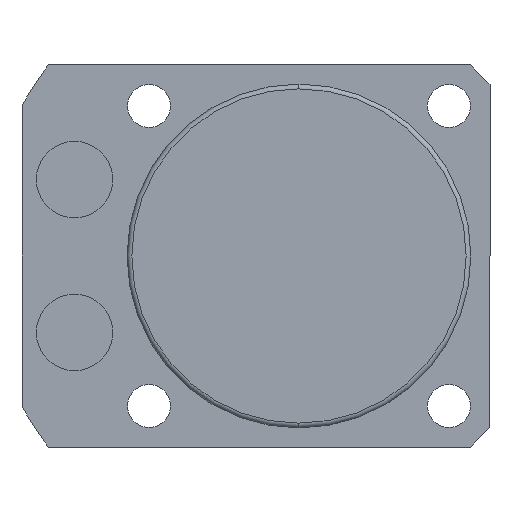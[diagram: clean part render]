
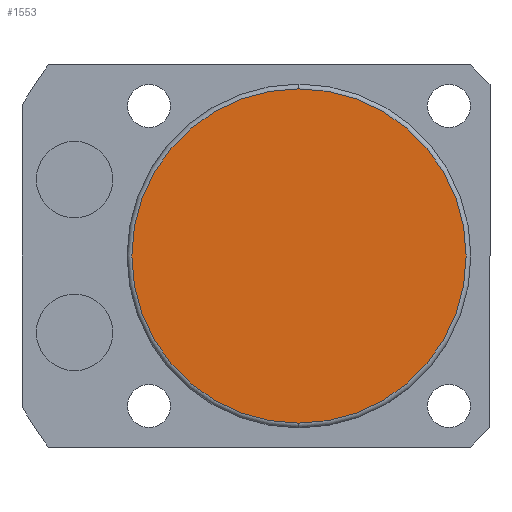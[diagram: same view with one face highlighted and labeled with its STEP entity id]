
A CAD part, front view. The second image highlights one B-rep face of the part: STEP entity #1553.
In plain terms, the highlighted planar face has unit normal (0, -1, 0).
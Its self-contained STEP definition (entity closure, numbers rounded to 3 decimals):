
#161 = PLANE ( 'NONE',  #987 ) ;
#304 = CIRCLE ( 'NONE', #435, 17.5 ) ;
#336 = EDGE_CURVE ( 'NONE', #1140, #1833, #304, .T. ) ;
#337 = CARTESIAN_POINT ( 'NONE',  ( 0., -65.5, 0. ) ) ;
#435 = AXIS2_PLACEMENT_3D ( 'NONE', #1738, #1905, #656 ) ;
#464 = EDGE_CURVE ( 'NONE', #1833, #1140, #715, .T. ) ;
#515 = EDGE_LOOP ( 'NONE', ( #1082, #1105 ) ) ;
#656 = DIRECTION ( 'NONE',  ( 0., 0., -1. ) ) ;
#715 = CIRCLE ( 'NONE', #1908, 17.5 ) ;
#987 = AXIS2_PLACEMENT_3D ( 'NONE', #337, #1800, #1785 ) ;
#1082 = ORIENTED_EDGE ( 'NONE', *, *, #336, .T. ) ;
#1105 = ORIENTED_EDGE ( 'NONE', *, *, #464, .T. ) ;
#1140 = VERTEX_POINT ( 'NONE', #1688 ) ;
#1320 = CARTESIAN_POINT ( 'NONE',  ( 0., -65.5, 17.5 ) ) ;
#1413 = CARTESIAN_POINT ( 'NONE',  ( 0., -65.5, 0. ) ) ;
#1553 = ADVANCED_FACE ( 'NONE', ( #2335 ), #161, .T. ) ;
#1573 = DIRECTION ( 'NONE',  ( 0., -1., 0. ) ) ;
#1688 = CARTESIAN_POINT ( 'NONE',  ( 0., -65.5, -17.5 ) ) ;
#1738 = CARTESIAN_POINT ( 'NONE',  ( 0., -65.5, 0. ) ) ;
#1762 = DIRECTION ( 'NONE',  ( 0., 0., -1. ) ) ;
#1785 = DIRECTION ( 'NONE',  ( 0., 0., -1. ) ) ;
#1800 = DIRECTION ( 'NONE',  ( 0., -1., 0. ) ) ;
#1833 = VERTEX_POINT ( 'NONE', #1320 ) ;
#1905 = DIRECTION ( 'NONE',  ( 0., -1., 0. ) ) ;
#1908 = AXIS2_PLACEMENT_3D ( 'NONE', #1413, #1573, #1762 ) ;
#2335 = FACE_OUTER_BOUND ( 'NONE', #515, .T. ) ;
